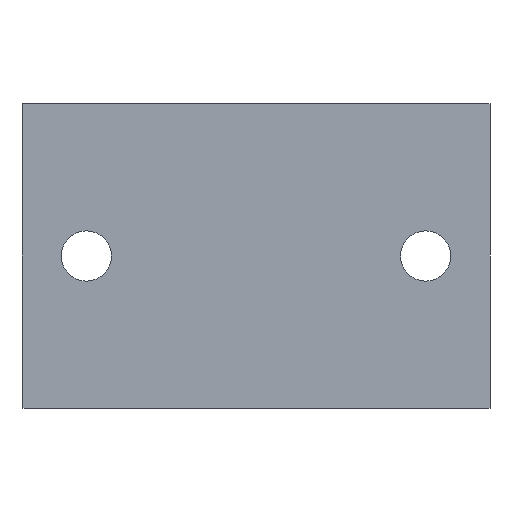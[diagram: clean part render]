
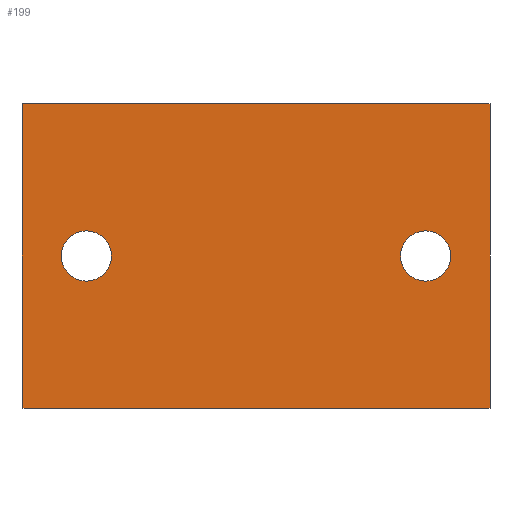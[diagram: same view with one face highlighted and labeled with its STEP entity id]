
A CAD part, front view. The second image highlights one B-rep face of the part: STEP entity #199.
In plain terms, the highlighted planar face has unit normal (0, -1, 0).
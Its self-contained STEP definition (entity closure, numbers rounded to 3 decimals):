
#7 = CARTESIAN_POINT ( 'NONE',  ( 14.5, -16.5, 0. ) ) ;
#17 = EDGE_CURVE ( 'NONE', #320, #803, #745, .T. ) ;
#43 = AXIS2_PLACEMENT_3D ( 'NONE', #7, #134, #404 ) ;
#48 = CARTESIAN_POINT ( 'NONE',  ( 14.5, -16.5, 0. ) ) ;
#50 = VERTEX_POINT ( 'NONE', #102 ) ;
#61 = DIRECTION ( 'NONE',  ( 0., 0., 1. ) ) ;
#81 = CARTESIAN_POINT ( 'NONE',  ( -20., -16.5, 13. ) ) ;
#102 = CARTESIAN_POINT ( 'NONE',  ( -14.5, -16.5, -2.15 ) ) ;
#120 = ORIENTED_EDGE ( 'NONE', *, *, #412, .T. ) ;
#122 = CARTESIAN_POINT ( 'NONE',  ( -20., -16.5, 13. ) ) ;
#132 = EDGE_CURVE ( 'NONE', #720, #50, #283, .T. ) ;
#134 = DIRECTION ( 'NONE',  ( 0., -1., 0. ) ) ;
#149 = CIRCLE ( 'NONE', #193, 2.15 ) ;
#151 = ORIENTED_EDGE ( 'NONE', *, *, #132, .F. ) ;
#190 = EDGE_LOOP ( 'NONE', ( #662, #151 ) ) ;
#193 = AXIS2_PLACEMENT_3D ( 'NONE', #48, #306, #581 ) ;
#199 = ADVANCED_FACE ( 'NONE', ( #802, #458, #721 ), #463, .F. ) ;
#227 = DIRECTION ( 'NONE',  ( 0., -1., 0. ) ) ;
#229 = DIRECTION ( 'NONE',  ( 1., 0., 0. ) ) ;
#241 = LINE ( 'NONE', #773, #464 ) ;
#253 = ORIENTED_EDGE ( 'NONE', *, *, #448, .F. ) ;
#263 = ORIENTED_EDGE ( 'NONE', *, *, #266, .F. ) ;
#266 = EDGE_CURVE ( 'NONE', #583, #650, #270, .T. ) ;
#270 = CIRCLE ( 'NONE', #43, 2.15 ) ;
#271 = AXIS2_PLACEMENT_3D ( 'NONE', #381, #227, #700 ) ;
#283 = CIRCLE ( 'NONE', #570, 2.15 ) ;
#294 = CARTESIAN_POINT ( 'NONE',  ( -20., -16.5, -13. ) ) ;
#300 = LINE ( 'NONE', #686, #408 ) ;
#306 = DIRECTION ( 'NONE',  ( 0., -1., 0. ) ) ;
#320 = VERTEX_POINT ( 'NONE', #81 ) ;
#324 = ORIENTED_EDGE ( 'NONE', *, *, #834, .F. ) ;
#335 = DIRECTION ( 'NONE',  ( 0., 0., -1. ) ) ;
#343 = CARTESIAN_POINT ( 'NONE',  ( 14.5, -16.5, 2.15 ) ) ;
#347 = EDGE_LOOP ( 'NONE', ( #324, #263 ) ) ;
#350 = CARTESIAN_POINT ( 'NONE',  ( -20., -16.5, 13. ) ) ;
#381 = CARTESIAN_POINT ( 'NONE',  ( -14.5, -16.5, 0. ) ) ;
#383 = DIRECTION ( 'NONE',  ( 0., 0., -1. ) ) ;
#391 = VECTOR ( 'NONE', #335, 1000. ) ;
#404 = DIRECTION ( 'NONE',  ( 0., 0., -1. ) ) ;
#407 = VERTEX_POINT ( 'NONE', #757 ) ;
#408 = VECTOR ( 'NONE', #229, 1000. ) ;
#412 = EDGE_CURVE ( 'NONE', #803, #856, #300, .T. ) ;
#419 = AXIS2_PLACEMENT_3D ( 'NONE', #122, #661, #61 ) ;
#444 = CARTESIAN_POINT ( 'NONE',  ( -14.5, -16.5, 2.15 ) ) ;
#448 = EDGE_CURVE ( 'NONE', #407, #856, #241, .T. ) ;
#455 = CARTESIAN_POINT ( 'NONE',  ( -14.5, -16.5, 0. ) ) ;
#458 = FACE_BOUND ( 'NONE', #347, .T. ) ;
#463 = PLANE ( 'NONE',  #419 ) ;
#464 = VECTOR ( 'NONE', #777, 1000. ) ;
#493 = LINE ( 'NONE', #755, #543 ) ;
#521 = CIRCLE ( 'NONE', #271, 2.15 ) ;
#531 = DIRECTION ( 'NONE',  ( 0., -1., 0. ) ) ;
#543 = VECTOR ( 'NONE', #620, 1000. ) ;
#551 = CARTESIAN_POINT ( 'NONE',  ( 14.5, -16.5, -2.15 ) ) ;
#570 = AXIS2_PLACEMENT_3D ( 'NONE', #455, #531, #383 ) ;
#581 = DIRECTION ( 'NONE',  ( 0., 0., -1. ) ) ;
#583 = VERTEX_POINT ( 'NONE', #343 ) ;
#620 = DIRECTION ( 'NONE',  ( 1., 0., 0. ) ) ;
#628 = ORIENTED_EDGE ( 'NONE', *, *, #688, .F. ) ;
#635 = EDGE_LOOP ( 'NONE', ( #120, #253, #628, #781 ) ) ;
#650 = VERTEX_POINT ( 'NONE', #551 ) ;
#661 = DIRECTION ( 'NONE',  ( 0., 1., 0. ) ) ;
#662 = ORIENTED_EDGE ( 'NONE', *, *, #786, .F. ) ;
#686 = CARTESIAN_POINT ( 'NONE',  ( -20., -16.5, -13. ) ) ;
#688 = EDGE_CURVE ( 'NONE', #320, #407, #493, .T. ) ;
#700 = DIRECTION ( 'NONE',  ( 0., 0., -1. ) ) ;
#720 = VERTEX_POINT ( 'NONE', #444 ) ;
#721 = FACE_OUTER_BOUND ( 'NONE', #635, .T. ) ;
#723 = CARTESIAN_POINT ( 'NONE',  ( 20., -16.5, -13. ) ) ;
#745 = LINE ( 'NONE', #350, #391 ) ;
#755 = CARTESIAN_POINT ( 'NONE',  ( -20., -16.5, 13. ) ) ;
#757 = CARTESIAN_POINT ( 'NONE',  ( 20., -16.5, 13. ) ) ;
#773 = CARTESIAN_POINT ( 'NONE',  ( 20., -16.5, 13. ) ) ;
#777 = DIRECTION ( 'NONE',  ( 0., 0., -1. ) ) ;
#781 = ORIENTED_EDGE ( 'NONE', *, *, #17, .T. ) ;
#786 = EDGE_CURVE ( 'NONE', #50, #720, #521, .T. ) ;
#802 = FACE_BOUND ( 'NONE', #190, .T. ) ;
#803 = VERTEX_POINT ( 'NONE', #294 ) ;
#834 = EDGE_CURVE ( 'NONE', #650, #583, #149, .T. ) ;
#856 = VERTEX_POINT ( 'NONE', #723 ) ;
